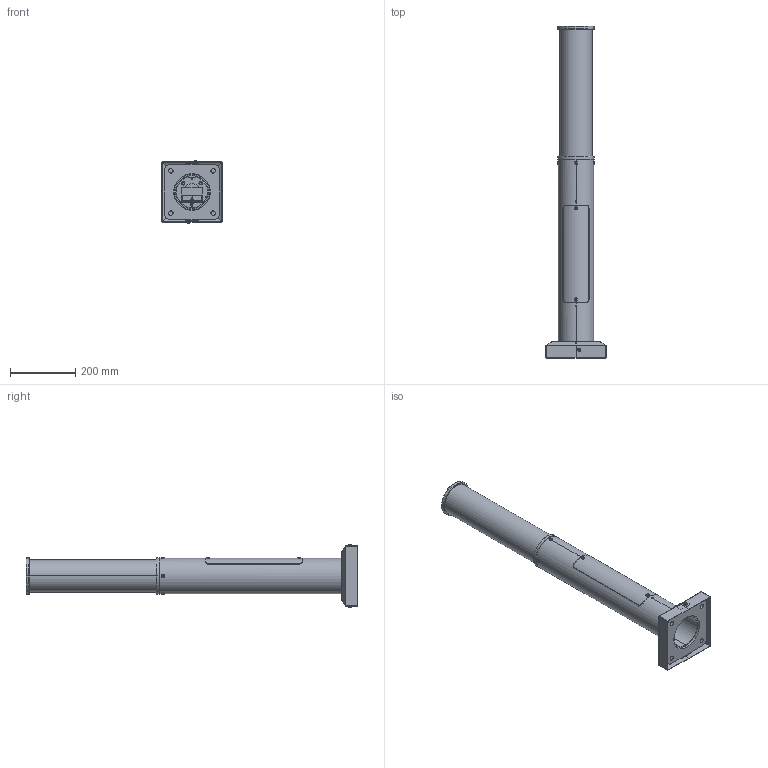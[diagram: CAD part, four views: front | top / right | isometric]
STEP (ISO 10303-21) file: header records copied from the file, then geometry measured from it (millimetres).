
FILE_DESCRIPTION (( 'STEP AP214' ), '1' );
FILE_NAME ('triga-1-1(50)-(Ê170-130-4õ14)-ö+ïî.STEP', '2021-07-08T14:07:55', ( '' ), ( '' ), 'SwSTEP 2.0', 'SolidWorks 2020', '' );
FILE_SCHEMA (( 'AUTOMOTIVE_DESIGN' ));
Length unit declared in the file: millimetre
Products named in the file (31): Xitanium 65W 0.7A 230V I160; 栺樏鋋 triga-1-1_摵左垣; 170õ170õ10 (110) ì.ö.130,4õ14_Ôëàíåö; Êîðóñ ñâåòèëüíèêà triga; Òðóáà triga-1_¤¥à¦ â¥«ì á¢¥â®¤¨®¤®¢; 砑僔蠂縺 triga-1 ; 署赅 triga-1_娻腓獱; PL127.07-05; Êàáåëü ÊÏÑÂÂíã(À)-LS 1õ2õ0,5 êâ.ìì êðàñí.; BS-170(108)-项塍牮赅; ﾎ魵瑙韃 triga-1_ｮ皴ｮ｢ｭｨ･; BS-170(108)-Äåêîðàòèâíûé öîêîëü 170(Ä108); ﾑ鸙 triga-1-1; 砚弪桦桕 triga-050-4000 乩; çàêë¸ìêà ðåçüáîâàÿ Ì6; Êàáåëü ÏÂÑ 2õ0,75 êâ.ìì ÷åðíûé; Ïëàíêà çàçåìëåíèÿ 35õ20; Êëåììà WAGO 221-412 2 êîíòàêòíàÿ (ðàçúåìíîå ñîåä.); Ñàìîðåç íåðæàâåþùèé 2,9õ16 DIN 7981 H A2 ñ ïîëóêðóãëîé ãîëîâêîé; Hex Bolt 7798_gost_伄 M6x45 儙憭 7798-70; Îïîðà triga-1-1(50); 署赅 膻赅 triga-1; Ôëàíåö triga-1_¤¥à¦ â¥«ì á¢¥â®¤¨®¤®¢; 砑鳧罻  triga-1; triga-1-1(50)-(Ê170-130-4õ14)-ö+ïî; 砑僗鴀 triga-1-1.SLPRT; Óïëîòíèòåëüíàÿ âòóëêà S-GET 57207; BS-170(108)-砑僗鴀; socket button head screw_iso_ISO 7380 - M6 x 16 - 16N
Assembly tree (82 placements, depth 4):
  triga-1-1(50)-(Ê170-130-4õ14)-ö+ïî
    ﾑ鸙 triga-1-1
      170õ170õ10 (110) ì.ö.130,4õ14_Ôëàíåö
      Îïîðà triga-1-1(50)
      Ïëàíêà çàçåìëåíèÿ 35õ20
      砑鳧罻  triga-1  x2
      砑僗鴀 triga-1-1.SLPRT  x2
    砚弪桦桕 triga-050-4000 乩
      çàêë¸ìêà ðåçüáîâàÿ Ì6  x4
      Hex Bolt 7798_gost_伄 M6x45 儙憭 7798-70  x4
      Óïëîòíèòåëüíàÿ âòóëêà S-GET 57207
      PL127.07-05  x4
      Êîðóñ ñâåòèëüíèêà triga
        Ôëàíåö triga-1_¤¥à¦ â¥«ì á¢¥â®¤¨®¤®¢
        Òðóáà triga-1_¤¥à¦ â¥«ì á¢¥â®¤¨®¤®¢
        署赅 triga-1_娻腓獱
      栺樏鋋 triga-1-1_摵左垣
      ﾎ魵瑙韃 triga-1_ｮ皴ｮ｢ｭｨ･
      Ñàìîðåç íåðæàâåþùèé 2,9õ16 DIN 7981 H A2 ñ ïîëóêðóãëîé ãîëîâêîé  x24
    署赅 膻赅 triga-1
    砑僔蠂縺 triga-1 
    Xitanium 65W 0.7A 230V I160
    socket button head screw_iso_ISO 7380 - M6 x 16 - 16N  x8
    Êëåììà WAGO 221-412 2 êîíòàêòíàÿ (ðàçúåìíîå ñîåä.)  x6
    Êàáåëü ÊÏÑÂÂíã(À)-LS 1õ2õ0,5 êâ.ìì êðàñí.
    Êàáåëü ÏÂÑ 2õ0,75 êâ.ìì ÷åðíûé
    çàêë¸ìêà ðåçüáîâàÿ Ì6  x2
    BS-170(108)-Äåêîðàòèâíûé öîêîëü 170(Ä108)
      BS-170(108)-项塍牮赅
        BS-170(108)-项塍牮赅
        BS-170(108)-砑僗鴀
      BS-170(108)-项塍牮赅
        BS-170(108)-项塍牮赅
        BS-170(108)-砑僗鴀
      socket button head screw_iso_ISO 7380 - M6 x 16 - 16N  x2
Bounding box: 186 x 1020.2 x 192.6 mm (x, y, z)
Volume: 2131486.6 mm3; surface area: 1169617.7 mm2
Topology: 76 solids, 76 shells, 2464 faces, 6258 edges, 4023 vertices
Faces by surface type: plane 1586, cylinder 612, cone 124, sphere 80, torus 42, bspline 20
Entity records: 26165 total; most frequent: CARTESIAN_POINT 5710, DIRECTION 3799, ORIENTED_EDGE 3490, EDGE_CURVE 1745, AXIS2_PLACEMENT_3D 1391, VERTEX_POINT 1130, LINE 1017, VECTOR 1017
